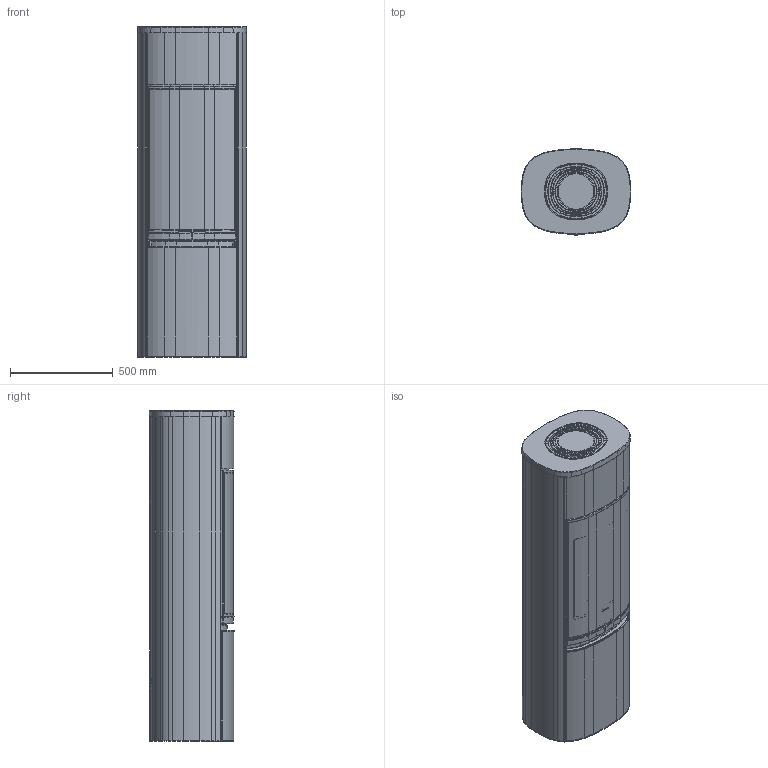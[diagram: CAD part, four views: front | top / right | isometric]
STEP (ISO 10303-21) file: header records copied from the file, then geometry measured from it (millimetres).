
FILE_DESCRIPTION(/* description */ ('Unknown'),/* implementation_level */ '2;1');
FILE_NAME(/* name */ 'DSN1111654_0_asm',/* time_stamp */ '2025-02-28T15:50:36+01:00',/* author */ ('Unknown'),/* organization */ ('NIBE AB'),/* preprocessor_version */ 'ST-DEVELOPER v18.102',/* originating_system */ 'Solid Edge',/* authorisation */ 'Unknown');
FILE_SCHEMA (('CONFIG_CONTROL_DESIGN'));
Products named in the file (11): DSN1111654; DSN1111629; DSN1111648; DSN1110955; DSN1111155; DSN1111118; DSN1111371; DSN1111641; DSN1111643; DSN1111410; DSN1110968
Assembly tree (10 placements, depth 2):
  DSN1111654
    DSN1111629
    DSN1111648
    DSN1110955
    DSN1111155
    DSN1111118
    DSN1111371
    DSN1111641
    DSN1111643
    DSN1111410
    DSN1110968
Bounding box: 534.52 x 417.01 x 1610 mm (x, y, z)
Volume: 264458375.3 mm3; surface area: 11881199 mm2
Topology: 10 solids, 10 shells, 1476 faces, 3854 edges, 2443 vertices
Faces by surface type: plane 391, cylinder 383, bspline 356, torus 196, cone 138, sphere 12
Full cylindrical faces by diameter (mm): 5 x5, 176.4 x1, 180.592 x1, 213.2 x1
Entity records: 74265 total; most frequent: CARTESIAN_POINT 39757, ORIENTED_EDGE 7616, DIRECTION 6478, EDGE_CURVE 3808, AXIS2_PLACEMENT_3D 2572, VERTEX_POINT 2435, FACE_BOUND 1577, EDGE_LOOP 1576
